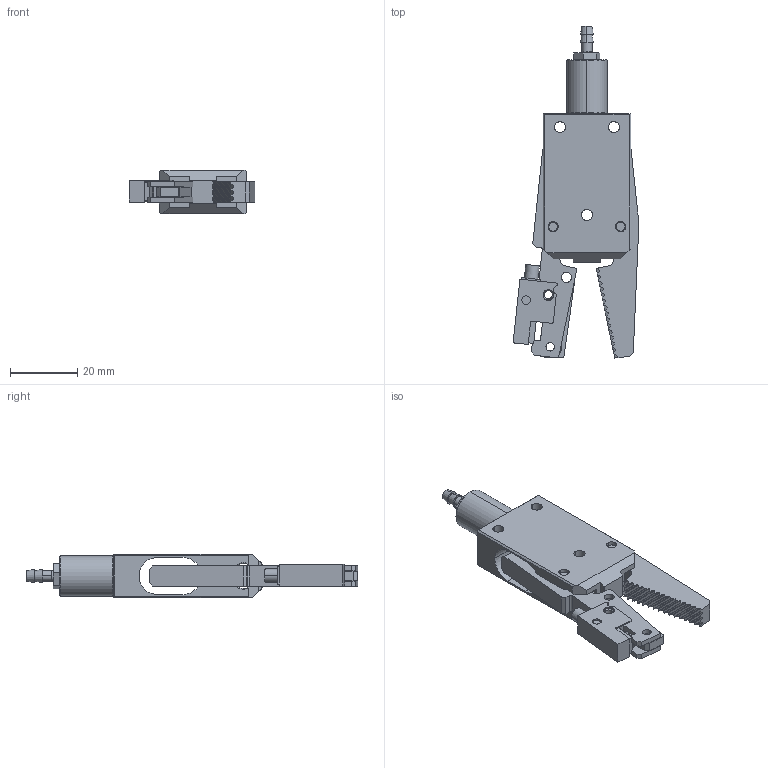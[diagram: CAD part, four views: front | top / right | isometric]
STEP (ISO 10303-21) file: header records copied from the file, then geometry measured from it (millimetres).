
FILE_DESCRIPTION (( 'STEP AP214' ), '1' );
FILE_NAME ('GRM12B-CN.STEP', '2023-03-08T00:59:51', ( '微软用户' ), ( '微软中国' ), 'SwSTEP 2.0', 'SolidWorks 2018', '' );
FILE_SCHEMA (( 'AUTOMOTIVE_DESIGN' ));
Length unit declared in the file: millimetre
Products named in the file (2): GRM12B-CN
Bounding box: 37.29 x 98.41 x 13 mm (x, y, z)
Volume: 14872.1 mm3; surface area: 12905.4 mm2
Topology: 9 solids, 9 shells, 355 faces, 981 edges, 645 vertices
Faces by surface type: plane 241, cylinder 86, cone 26, bspline 2
Entity records: 11703 total; most frequent: CARTESIAN_POINT 2309, ORIENTED_EDGE 1962, DIRECTION 1872, EDGE_CURVE 981, VECTOR 734, LINE 734, VERTEX_POINT 645, AXIS2_PLACEMENT_3D 569
